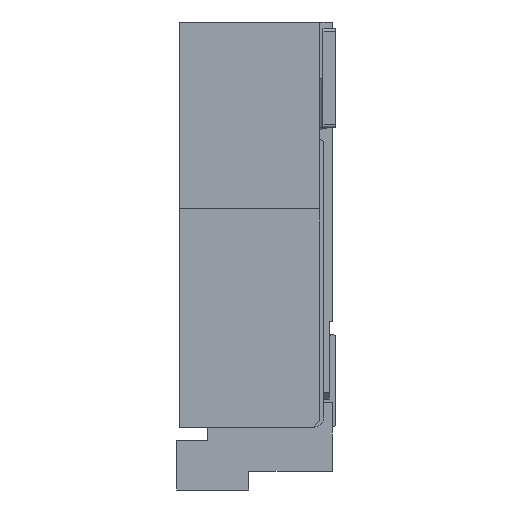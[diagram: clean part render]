
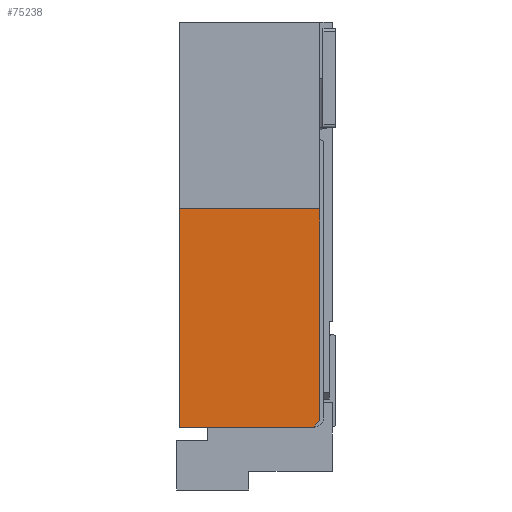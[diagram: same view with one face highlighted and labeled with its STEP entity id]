
A CAD part, left-side view. The second image highlights one B-rep face of the part: STEP entity #75238.
In plain terms, the highlighted planar face has unit normal (-1, 0, 0).
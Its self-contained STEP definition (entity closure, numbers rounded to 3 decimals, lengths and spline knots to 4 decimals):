
#1=DIRECTION('',(0.,0.707,-0.707));
#2=VECTOR('',#1,0.1414);
#3=CARTESIAN_POINT('',(-15.2,-1.025,-3.55));
#4=LINE('',#3,#2);
#9=DIRECTION('',(0.,0.,1.));
#10=VECTOR('',#9,3.4);
#11=CARTESIAN_POINT('',(-15.2,-1.025,-3.55));
#12=LINE('',#11,#10);
#17=DIRECTION('',(0.,1.,0.));
#18=VECTOR('',#17,2.25);
#19=CARTESIAN_POINT('',(-15.2,-1.025,-0.15));
#20=LINE('',#19,#18);
#57=DIRECTION('',(0.,0.,-1.));
#58=VECTOR('',#57,3.5);
#59=CARTESIAN_POINT('',(-15.2,1.225,-0.15));
#60=LINE('',#59,#58);
#29689=DIRECTION('',(0.,-1.,0.));
#29690=VECTOR('',#29689,2.15);
#29691=CARTESIAN_POINT('',(-15.2,1.225,-3.65));
#29692=LINE('',#29691,#29690);
#57617=CARTESIAN_POINT('',(-15.2,-1.025,-3.55));
#57618=CARTESIAN_POINT('',(-15.2,-0.925,-3.65));
#57619=VERTEX_POINT('',#57617);
#57620=VERTEX_POINT('',#57618);
#57621=CARTESIAN_POINT('',(-15.2,1.225,-3.65));
#57622=VERTEX_POINT('',#57621);
#57623=CARTESIAN_POINT('',(-15.2,1.225,-0.15));
#57624=VERTEX_POINT('',#57623);
#57625=CARTESIAN_POINT('',(-15.2,-1.025,-0.15));
#57626=VERTEX_POINT('',#57625);
#75221=CARTESIAN_POINT('',(-15.2,0.1,-1.9));
#75222=DIRECTION('',(1.,0.,0.));
#75223=DIRECTION('',(0.,-1.,0.));
#75224=AXIS2_PLACEMENT_3D('',#75221,#75222,#75223);
#75225=PLANE('',#75224);
#75227=ORIENTED_EDGE('',*,*,#75226,.T.);
#75229=ORIENTED_EDGE('',*,*,#75228,.F.);
#75231=ORIENTED_EDGE('',*,*,#75230,.F.);
#75233=ORIENTED_EDGE('',*,*,#75232,.F.);
#75235=ORIENTED_EDGE('',*,*,#75234,.F.);
#75236=EDGE_LOOP('',(#75227,#75229,#75231,#75233,#75235));
#75237=FACE_OUTER_BOUND('',#75236,.F.);
#75238=ADVANCED_FACE('',(#75237),#75225,.F.);
#75226=EDGE_CURVE('',#57619,#57620,#4,.T.);
#75228=EDGE_CURVE('',#57622,#57620,#29692,.T.);
#75230=EDGE_CURVE('',#57624,#57622,#60,.T.);
#75232=EDGE_CURVE('',#57626,#57624,#20,.T.);
#75234=EDGE_CURVE('',#57619,#57626,#12,.T.);
